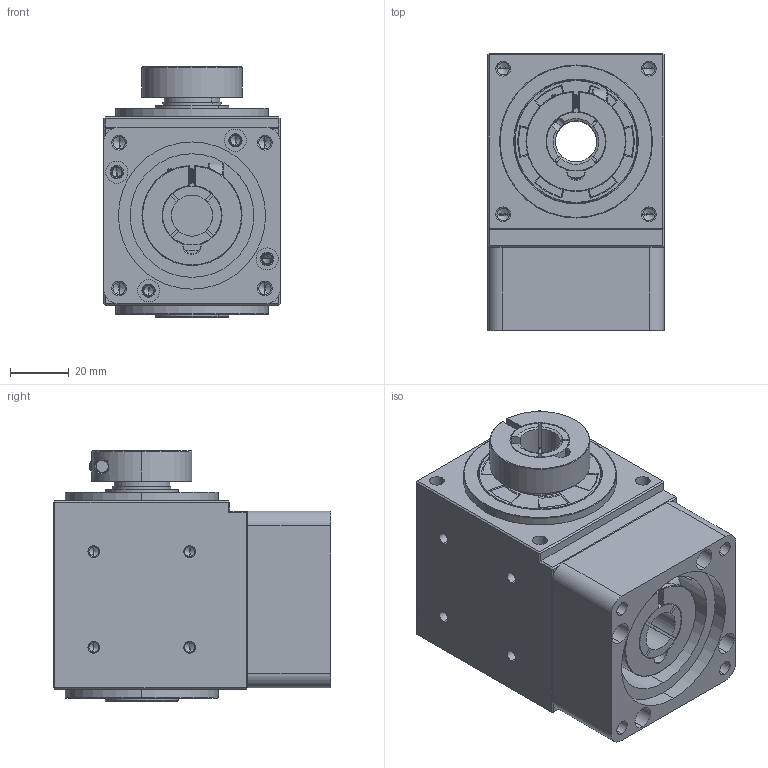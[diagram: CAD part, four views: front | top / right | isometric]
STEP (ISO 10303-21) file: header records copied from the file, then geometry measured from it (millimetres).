
FILE_DESCRIPTION (( 'STEP AP203' ), '1' );
FILE_NAME ('RH60-5(14-50-70-M5).STEP', '2022-03-11T13:44:12', ( '' ), ( '' ), 'SwSTEP 2.0', 'SolidWorks 2016', '' );
FILE_SCHEMA (( 'CONFIG_CONTROL_DESIGN' ));
Length unit declared in the file: millimetre
Products named in the file (8): R60-5(50-70-M5); R60-25x42x5; R60; RH60-(14x13-4x10.5); SN60-34x20x10.5-M5; R60-5-(14); R60-25x47x5; RH60-5(14-50-70-M5)
Assembly tree (8 placements, depth 2):
  RH60-5(14-50-70-M5)
    R60
    R60-25x42x5
    R60-25x47x5
    R60-5(50-70-M5)
    RH60-(14x13-4x10.5)
    R60-5-(14)
    SN60-34x20x10.5-M5  x2
Bounding box: 60 x 94.2 x 85 mm (x, y, z)
Volume: 238528.8 mm3; surface area: 86897.7 mm2
Topology: 10 solids, 10 shells, 836 faces, 2073 edges, 1259 vertices
Faces by surface type: cylinder 397, cone 165, plane 161, bspline 61, torus 52
Entity records: 39687 total; most frequent: CARTESIAN_POINT 23693, ORIENTED_EDGE 3198, DIRECTION 3147, EDGE_CURVE 1599, AXIS2_PLACEMENT_3D 1242, VERTEX_POINT 989, EDGE_LOOP 766, ADVANCED_FACE 681
